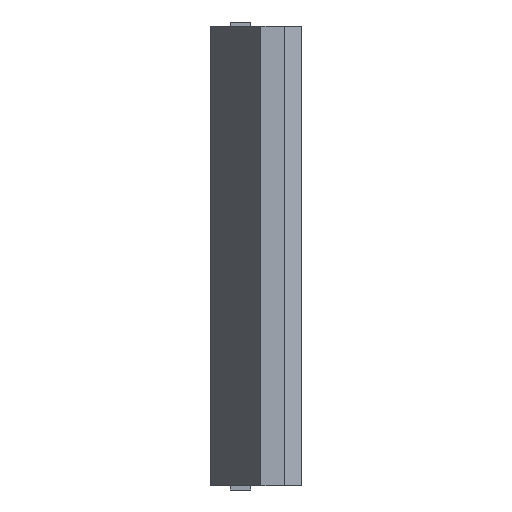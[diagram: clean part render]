
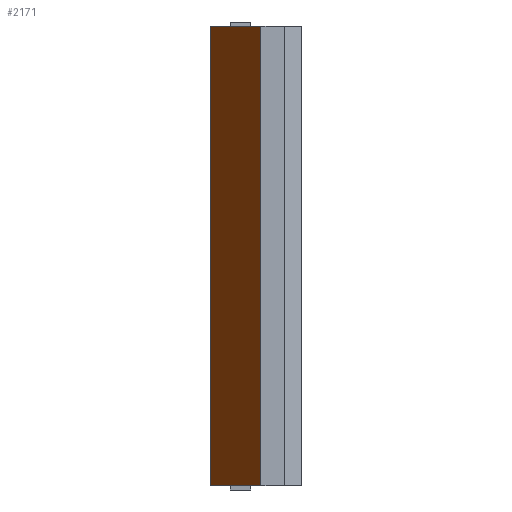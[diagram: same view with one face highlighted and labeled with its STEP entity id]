
A CAD part, left-side view. The second image highlights one B-rep face of the part: STEP entity #2171.
In plain terms, the highlighted planar face has unit normal (-0.5, 0.866, 0).
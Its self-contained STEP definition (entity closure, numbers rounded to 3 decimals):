
#87 = CARTESIAN_POINT ( 'NONE',  ( -24.65, 16., -11.3 ) ) ;
#109 = CARTESIAN_POINT ( 'NONE',  ( -28.98, 13.5, -11.3 ) ) ;
#174 = ORIENTED_EDGE ( 'NONE', *, *, #1578, .T. ) ;
#259 = LINE ( 'NONE', #2946, #2769 ) ;
#293 = AXIS2_PLACEMENT_3D ( 'NONE', #2437, #1030, #2397 ) ;
#313 = CARTESIAN_POINT ( 'NONE',  ( -28.98, 13.5, -11.3 ) ) ;
#902 = CARTESIAN_POINT ( 'NONE',  ( -24.65, 16., 11.3 ) ) ;
#971 = EDGE_CURVE ( 'NONE', #1288, #2653, #1794, .T. ) ;
#1004 = PLANE ( 'NONE',  #293 ) ;
#1030 = DIRECTION ( 'NONE',  ( -0.5, 0.866, 0. ) ) ;
#1042 = VERTEX_POINT ( 'NONE', #109 ) ;
#1044 = ORIENTED_EDGE ( 'NONE', *, *, #971, .F. ) ;
#1062 = LINE ( 'NONE', #2267, #2126 ) ;
#1139 = LINE ( 'NONE', #313, #1761 ) ;
#1288 = VERTEX_POINT ( 'NONE', #902 ) ;
#1429 = FACE_OUTER_BOUND ( 'NONE', #2242, .T. ) ;
#1481 = VERTEX_POINT ( 'NONE', #87 ) ;
#1537 = CARTESIAN_POINT ( 'NONE',  ( -28.98, 13.5, 11.3 ) ) ;
#1578 = EDGE_CURVE ( 'NONE', #1481, #1042, #259, .T. ) ;
#1592 = ORIENTED_EDGE ( 'NONE', *, *, #2341, .T. ) ;
#1761 = VECTOR ( 'NONE', #2534, 1000. ) ;
#1791 = VECTOR ( 'NONE', #2879, 1000. ) ;
#1794 = LINE ( 'NONE', #2169, #1791 ) ;
#1875 = EDGE_CURVE ( 'NONE', #1481, #1288, #1062, .T. ) ;
#2126 = VECTOR ( 'NONE', #2501, 1000. ) ;
#2169 = CARTESIAN_POINT ( 'NONE',  ( -28.98, 13.5, 11.3 ) ) ;
#2171 = ADVANCED_FACE ( 'NONE', ( #1429 ), #1004, .T. ) ;
#2242 = EDGE_LOOP ( 'NONE', ( #1592, #1044, #2295, #174 ) ) ;
#2267 = CARTESIAN_POINT ( 'NONE',  ( -24.65, 16., -11.3 ) ) ;
#2295 = ORIENTED_EDGE ( 'NONE', *, *, #1875, .F. ) ;
#2341 = EDGE_CURVE ( 'NONE', #1042, #2653, #1139, .T. ) ;
#2397 = DIRECTION ( 'NONE',  ( -0.866, -0.5, 0. ) ) ;
#2437 = CARTESIAN_POINT ( 'NONE',  ( -28.98, 13.5, -11.3 ) ) ;
#2501 = DIRECTION ( 'NONE',  ( 0., 0., 1. ) ) ;
#2503 = DIRECTION ( 'NONE',  ( -0.866, -0.5, 0. ) ) ;
#2534 = DIRECTION ( 'NONE',  ( 0., 0., 1. ) ) ;
#2653 = VERTEX_POINT ( 'NONE', #1537 ) ;
#2769 = VECTOR ( 'NONE', #2503, 1000. ) ;
#2879 = DIRECTION ( 'NONE',  ( -0.866, -0.5, 0. ) ) ;
#2946 = CARTESIAN_POINT ( 'NONE',  ( -28.98, 13.5, -11.3 ) ) ;
